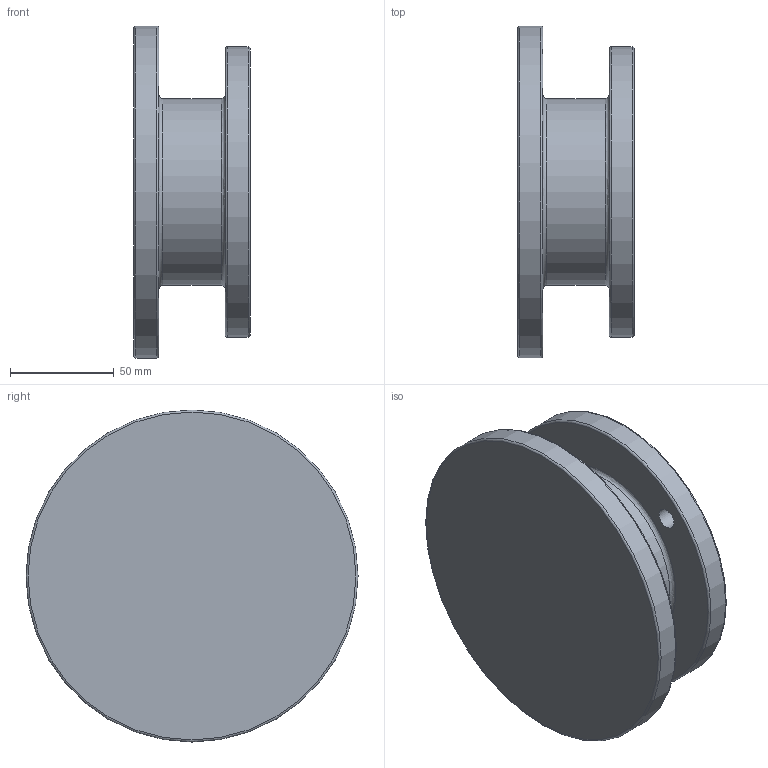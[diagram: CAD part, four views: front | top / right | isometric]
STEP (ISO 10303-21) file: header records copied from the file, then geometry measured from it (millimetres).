
FILE_DESCRIPTION((''),'2;1');
FILE_NAME('D:\PAWEŁ\ZLECENIA\DualSystem\001 Modele\DKAB60_\DK_60_STEP\63_B5_L56.stp','2011-11-25T00:13:44',('Pawe'),(''),'Autodesk Inventor 2009','Autodesk Inventor 2009','');
FILE_SCHEMA(('AUTOMOTIVE_DESIGN { 1 0 10303 214 1 1 1 1 }'));
Length unit declared in the file: millimetre
Products named in the file (1): 63_B5_L56
Bounding box: 56 x 160 x 160 mm (x, y, z)
Volume: 424096 mm3; surface area: 92459.4 mm2
Topology: 1 solids, 1 shells, 29 faces, 56 edges, 35 vertices
Faces by surface type: plane 11, cylinder 7, bspline 6, torus 5
Full cylindrical faces by diameter (mm): 25 x1, 78 x1, 90 x2, 140 x1, 160 x1
Entity records: 856 total; most frequent: CARTESIAN_POINT 260, DIRECTION 116, ORIENTED_EDGE 78, EDGE_LOOP 60, AXIS2_PLACEMENT_3D 53, EDGE_CURVE 39, VERTEX_POINT 35, FACE_BOUND 31
